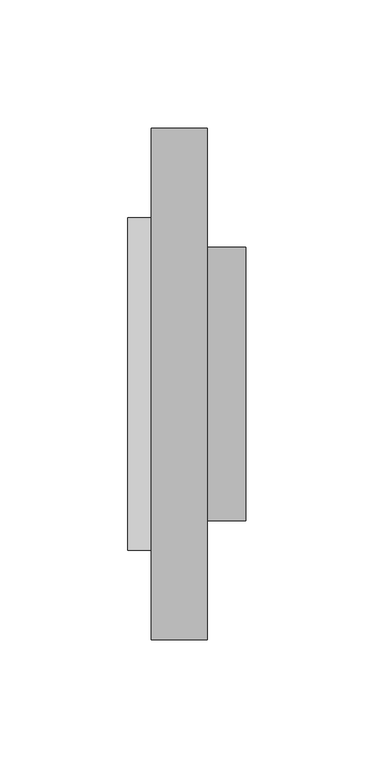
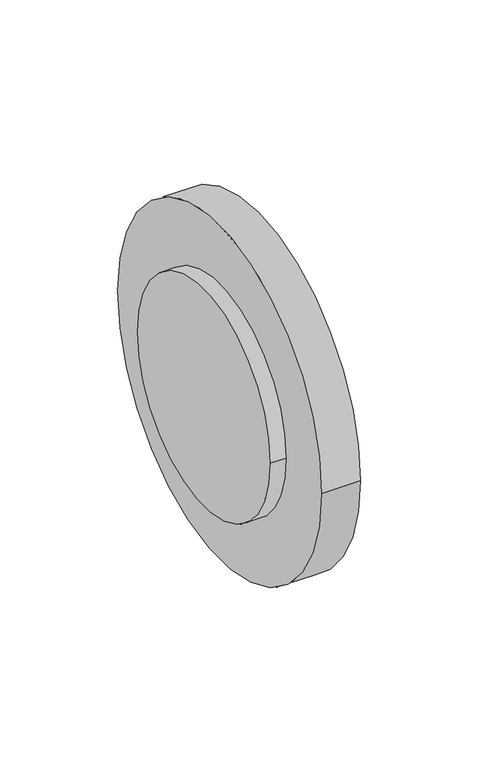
"""IFC4 building model written with IfcOpenShell, lengths in millimetres: pipe fitting geometry, NIRON RED termofusion casquillo con brida : Estándar."""

from ifc_helpers import new_model, si_unit, point, frame, origin, origin_2d, place, context, project, spatial, circle_curve, trimmed, segment, composite_curve, outline, extrude, source, transform, mapped, element, save


def pipe_fitting_10267d7c(model_context):
    return source(origin(), model_context, "Body", "SweptSolid", [
        extrude(outline(composite_curve([segment(trimmed(circle_curve(origin_2d(), 53.5), [point((53.5, 0.0))], [point((-53.5, 0.0))], False, "CARTESIAN"), True, "CONTINUOUS"), segment(trimmed(circle_curve(origin_2d(), 53.5), [point((-53.5, 0.0))], [point((53.5, 0.0))], False, "CARTESIAN"), True, "CONTINUOUS")], self_intersect=False)), frame((9.0, 0.0, 0.0), z_axis=(1.0, 0.0, 0.0), x_axis=(0.0, 1.0, 0.0)), (0.0, 0.0, 1.0), 37.0),
        extrude(outline(composite_curve([segment(trimmed(circle_curve(origin_2d(), 65.0), [point((-65.0, 0.0))], [point((65.0, 0.0))], False, "CARTESIAN"), True, "CONTINUOUS"), segment(trimmed(circle_curve(origin_2d(), 65.0), [point((65.0, 0.0))], [point((-65.0, 0.0))], False, "CARTESIAN"), True, "CONTINUOUS")], self_intersect=False)), frame((0.0, 0.0, 0.0), z_axis=(1.0, 0.0, 0.0), x_axis=(0.0, 1.0, 0.0)), (0.0, 0.0, 1.0), 9.0),
        extrude(outline(composite_curve([segment(trimmed(circle_curve(origin_2d(), 100.0), [point((100.0, 0.0))], [point((-100.0, 0.0))], False, "CARTESIAN"), True, "CONTINUOUS"), segment(trimmed(circle_curve(origin_2d(), 100.0), [point((-100.0, 0.0))], [point((100.0, 0.0))], False, "CARTESIAN"), True, "CONTINUOUS")], self_intersect=False), holes=[composite_curve([segment(trimmed(circle_curve(origin_2d(), 54.0), [point((54.0, 0.0))], [point((-54.0, 0.0))], True, "CARTESIAN"), True, "CONTINUOUS"), segment(trimmed(circle_curve(origin_2d(), 54.0), [point((-54.0, 0.0))], [point((54.0, 0.0))], True, "CARTESIAN"), True, "CONTINUOUS")], self_intersect=False)]), frame((9.0, 0.0, 0.0), z_axis=(1.0, 0.0, 0.0), x_axis=(0.0, 1.0, 0.0)), (0.0, 0.0, 1.0), 22.0),
    ])


if __name__ == "__main__":
    model = new_model("IFC4")
    model_context = context("Model", 3, world=origin())
    ifc_project = project(units=[si_unit("LENGTHUNIT", "METRE", prefix="MILLI")], contexts=[model_context])
    site = spatial("IfcSite", under=ifc_project)
    building = spatial("IfcBuilding", under=site)
    placement = place(None, origin())
    pipe_fitting_shape = pipe_fitting_10267d7c(model_context)
    element("IfcPipeFitting", 1, ObjectType="NIRON RED termofusion casquillo con brida : Estándar", at=placement, inside=building, context=model_context, shape_type="MappedRepresentation", body=[
        mapped(pipe_fitting_shape, transform((0.0, 0.0, 0.0), x_axis=(1.0, 0.0, 0.0), y_axis=(0.0, 1.0, 0.0), z_axis=(0.0, 0.0, 1.0))),
    ])
    save(model, "model.ifc")
